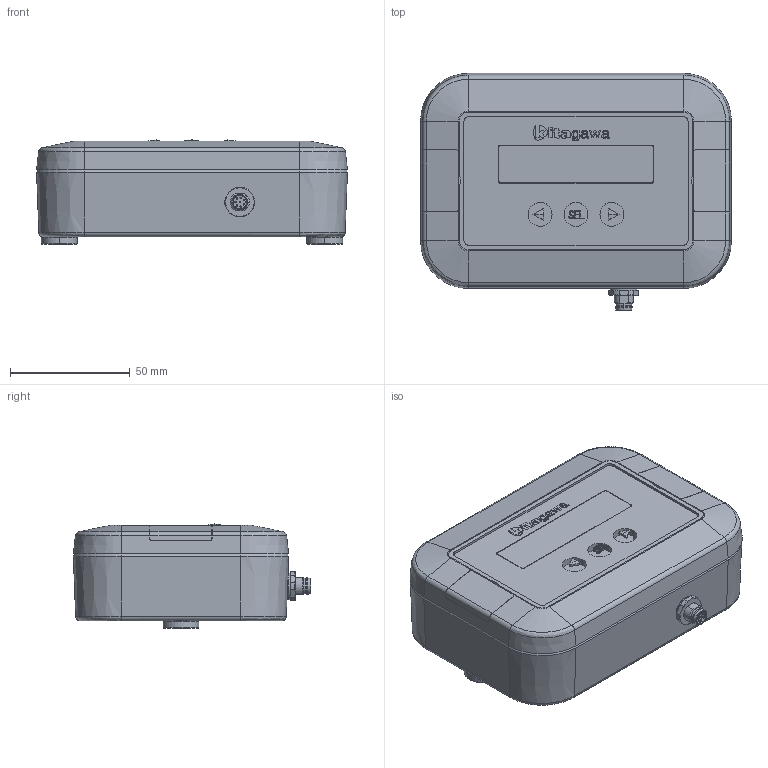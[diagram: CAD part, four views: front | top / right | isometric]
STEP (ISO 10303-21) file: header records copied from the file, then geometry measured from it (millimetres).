
FILE_DESCRIPTION (( 'STEP AP214' ), '1' );
FILE_NAME ('61G700680.STEP', '2025-12-02T06:49:50', ( '' ), ( '' ), 'SwSTEP 2.0', 'SolidWorks 2022', '' );
FILE_SCHEMA (( 'AUTOMOTIVE_DESIGN' ));
Length unit declared in the file: millimetre
Products named in the file (1): 61G700680
Bounding box: 130 x 99.24 x 43.5 mm (x, y, z)
Volume: 126901.9 mm3; surface area: 99702.4 mm2
Topology: 30 solids, 30 shells, 3329 faces, 8698 edges, 5592 vertices
Faces by surface type: plane 1896, cylinder 627, bspline 430, cone 338, torus 24, sphere 14
Entity records: 141131 total; most frequent: CARTESIAN_POINT 34018, ORIENTED_EDGE 17324, DIRECTION 14724, EDGE_CURVE 8662, LINE 5650, VECTOR 5650, VERTEX_POINT 5592, AXIS2_PLACEMENT_3D 4537
